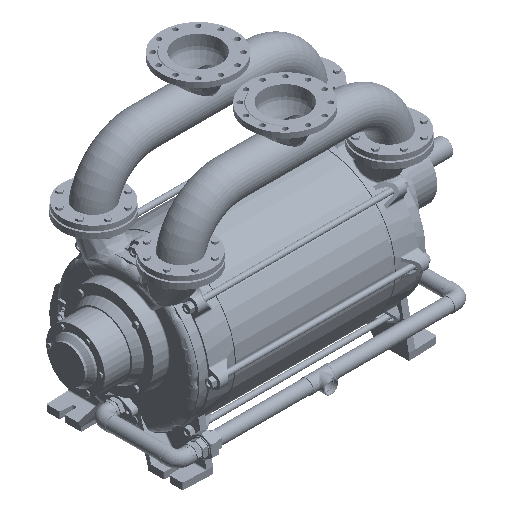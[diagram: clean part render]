
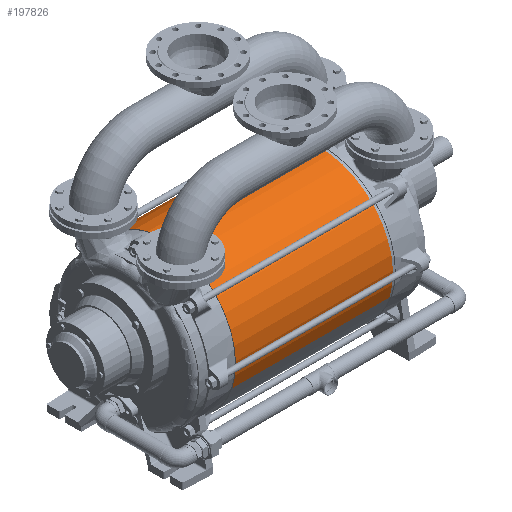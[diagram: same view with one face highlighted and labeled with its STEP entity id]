
A CAD part, isometric view. The second image highlights one B-rep face of the part: STEP entity #197826.
In plain terms, the highlighted cylindrical face has radius 334 mm (diameter 668 mm), a partial arc.
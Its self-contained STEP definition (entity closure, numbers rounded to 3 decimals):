
#1147 = ORIENTED_EDGE ( 'NONE', *, *, #65814, .F. ) ;
#1491 = CIRCLE ( 'NONE', #65858, 334. ) ;
#8324 = DIRECTION ( 'NONE',  ( 1., 0., 0. ) ) ;
#17039 = EDGE_CURVE ( 'NONE', #179850, #159806, #63095, .T. ) ;
#21179 = DIRECTION ( 'NONE',  ( -1., 0., 0. ) ) ;
#33955 = CARTESIAN_POINT ( 'NONE',  ( 944.95, 300., 400. ) ) ;
#48889 = VECTOR ( 'NONE', #140737, 1000. ) ;
#63095 = CIRCLE ( 'NONE', #166016, 334. ) ;
#63101 = DIRECTION ( 'NONE',  ( -1., 0., 0. ) ) ;
#64090 = CARTESIAN_POINT ( 'NONE',  ( 944.95, 617.683, 503.12 ) ) ;
#65814 = EDGE_CURVE ( 'NONE', #159806, #164750, #66434, .T. ) ;
#65858 = AXIS2_PLACEMENT_3D ( 'NONE', #91167, #152570, #137465 ) ;
#66434 = LINE ( 'NONE', #144923, #91531 ) ;
#71038 = AXIS2_PLACEMENT_3D ( 'NONE', #33955, #63101, #95301 ) ;
#91167 = CARTESIAN_POINT ( 'NONE',  ( 223.95, 300., 400. ) ) ;
#91531 = VECTOR ( 'NONE', #21179, 1000. ) ;
#95301 = DIRECTION ( 'NONE',  ( 0., -0.951, -0.309 ) ) ;
#95413 = LINE ( 'NONE', #187023, #48889 ) ;
#99603 = ORIENTED_EDGE ( 'NONE', *, *, #159817, .T. ) ;
#111355 = ORIENTED_EDGE ( 'NONE', *, *, #127919, .T. ) ;
#112905 = EDGE_LOOP ( 'NONE', ( #119536, #99603, #111355, #1147 ) ) ;
#119536 = ORIENTED_EDGE ( 'NONE', *, *, #17039, .F. ) ;
#123520 = FACE_OUTER_BOUND ( 'NONE', #112905, .T. ) ;
#127919 = EDGE_CURVE ( 'NONE', #163554, #164750, #1491, .T. ) ;
#131132 = DIRECTION ( 'NONE',  ( 0., 0.951, 0.309 ) ) ;
#133126 = CARTESIAN_POINT ( 'NONE',  ( 944.95, 300., 400. ) ) ;
#137465 = DIRECTION ( 'NONE',  ( 0., 0.951, 0.309 ) ) ;
#139628 = CYLINDRICAL_SURFACE ( 'NONE', #71038, 334. ) ;
#140737 = DIRECTION ( 'NONE',  ( -1., 0., 0. ) ) ;
#144923 = CARTESIAN_POINT ( 'NONE',  ( 944.95, -17.683, 296.88 ) ) ;
#152570 = DIRECTION ( 'NONE',  ( 1., 0., 0. ) ) ;
#158891 = CARTESIAN_POINT ( 'NONE',  ( 223.95, 617.683, 503.12 ) ) ;
#159806 = VERTEX_POINT ( 'NONE', #170936 ) ;
#159817 = EDGE_CURVE ( 'NONE', #179850, #163554, #95413, .T. ) ;
#163554 = VERTEX_POINT ( 'NONE', #158891 ) ;
#164750 = VERTEX_POINT ( 'NONE', #171408 ) ;
#166016 = AXIS2_PLACEMENT_3D ( 'NONE', #133126, #8324, #131132 ) ;
#170936 = CARTESIAN_POINT ( 'NONE',  ( 944.95, -17.683, 296.88 ) ) ;
#171408 = CARTESIAN_POINT ( 'NONE',  ( 223.95, -17.683, 296.88 ) ) ;
#179850 = VERTEX_POINT ( 'NONE', #64090 ) ;
#187023 = CARTESIAN_POINT ( 'NONE',  ( 944.95, 617.683, 503.12 ) ) ;
#197826 = ADVANCED_FACE ( 'NONE', ( #123520 ), #139628, .T. ) ;
